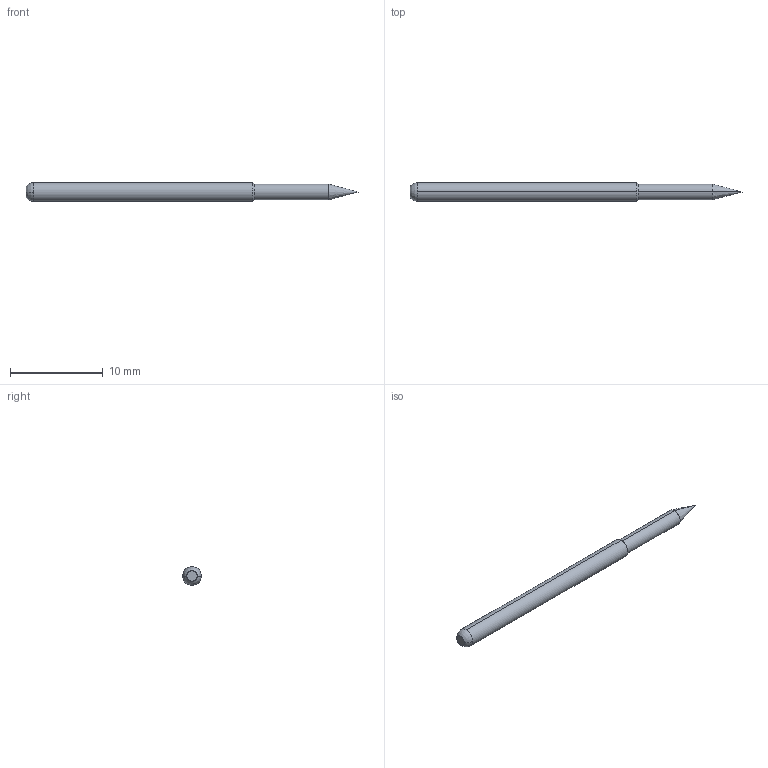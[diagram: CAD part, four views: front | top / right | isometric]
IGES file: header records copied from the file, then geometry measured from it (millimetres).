
Start section: SolidWorks IGES file using analytic representation for surfaces
Global section: file name: \\CODA-VM-SBS\RedirectedFolders\georged\My Documents\CODA CAD FILES\GENERAL PURPOSE TEST PROBES\MEDIUM REACH TEST PROBES\PA5 SERIES\ST-PA5BL.IGS; native system: SolidWorks 2024; preprocessor: SolidWorks 2024; author: GeorgeD; date: 240904.152238; units: millimetre
Bounding box: 35.8 x 2.03 x 2.03 mm (x, y, z)
Surface area: 210.1 mm2 (no closed solid volume)
Topology: 0 solids, 0 shells, 11 faces, 60 edges, 58 vertices
Faces by surface type: revolution 10, bspline 1
